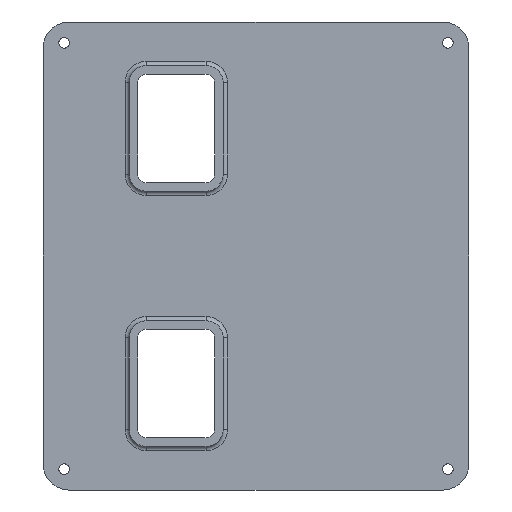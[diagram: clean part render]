
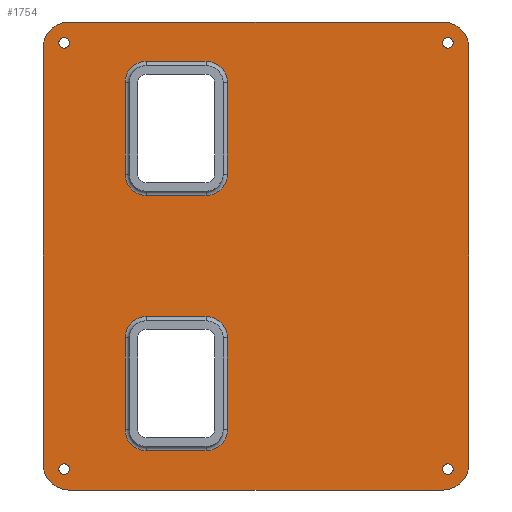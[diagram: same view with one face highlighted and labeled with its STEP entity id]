
A CAD part, front view. The second image highlights one B-rep face of the part: STEP entity #1754.
In plain terms, the highlighted planar face has unit normal (0, -1, 0).
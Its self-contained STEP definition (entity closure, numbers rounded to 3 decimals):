
#29=FACE_BOUND('',#333,.T.);
#30=FACE_BOUND('',#334,.T.);
#31=FACE_BOUND('',#335,.T.);
#32=FACE_BOUND('',#336,.T.);
#33=FACE_BOUND('',#337,.T.);
#34=FACE_BOUND('',#338,.T.);
#87=CIRCLE('',#1871,12.);
#88=CIRCLE('',#1874,12.);
#101=CIRCLE('',#1890,2.5);
#102=CIRCLE('',#1892,2.5);
#103=CIRCLE('',#1894,2.5);
#104=CIRCLE('',#1896,2.5);
#108=CIRCLE('',#1901,10.05);
#111=CIRCLE('',#1906,10.05);
#115=CIRCLE('',#1912,10.05);
#119=CIRCLE('',#1918,10.05);
#123=CIRCLE('',#1928,12.);
#124=CIRCLE('',#1929,12.);
#125=CIRCLE('',#1930,10.05);
#126=CIRCLE('',#1931,10.05);
#127=CIRCLE('',#1932,10.05);
#128=CIRCLE('',#1933,10.05);
#220=FACE_OUTER_BOUND('',#332,.T.);
#332=EDGE_LOOP('',(#1299,#1300,#1301,#1302,#1303,#1304,#1305,#1306));
#333=EDGE_LOOP('',(#1307));
#334=EDGE_LOOP('',(#1308));
#335=EDGE_LOOP('',(#1309));
#336=EDGE_LOOP('',(#1310));
#337=EDGE_LOOP('',(#1311,#1312,#1313,#1314,#1315,#1316,#1317,#1318));
#338=EDGE_LOOP('',(#1319,#1320,#1321,#1322,#1323,#1324,#1325,#1326));
#438=LINE('',#2692,#598);
#441=LINE('',#2700,#601);
#454=LINE('',#2771,#614);
#456=LINE('',#2783,#616);
#458=LINE('',#2795,#618);
#460=LINE('',#2804,#620);
#469=LINE('',#2827,#629);
#470=LINE('',#2830,#630);
#471=LINE('',#2836,#631);
#472=LINE('',#2840,#632);
#473=LINE('',#2844,#633);
#474=LINE('',#2847,#634);
#598=VECTOR('',#2119,10.);
#601=VECTOR('',#2128,10.);
#614=VECTOR('',#2197,10.);
#616=VECTOR('',#2211,10.);
#618=VECTOR('',#2225,10.);
#620=VECTOR('',#2237,10.);
#629=VECTOR('',#2260,10.);
#630=VECTOR('',#2263,10.);
#631=VECTOR('',#2268,10.);
#632=VECTOR('',#2271,10.);
#633=VECTOR('',#2274,10.);
#634=VECTOR('',#2277,10.);
#755=VERTEX_POINT('',#2684);
#756=VERTEX_POINT('',#2686);
#757=VERTEX_POINT('',#2690);
#758=VERTEX_POINT('',#2694);
#759=VERTEX_POINT('',#2698);
#780=VERTEX_POINT('',#2743);
#781=VERTEX_POINT('',#2747);
#782=VERTEX_POINT('',#2751);
#783=VERTEX_POINT('',#2755);
#784=VERTEX_POINT('',#2759);
#787=VERTEX_POINT('',#2764);
#789=VERTEX_POINT('',#2769);
#791=VERTEX_POINT('',#2775);
#793=VERTEX_POINT('',#2781);
#795=VERTEX_POINT('',#2787);
#797=VERTEX_POINT('',#2793);
#799=VERTEX_POINT('',#2799);
#805=VERTEX_POINT('',#2825);
#806=VERTEX_POINT('',#2826);
#807=VERTEX_POINT('',#2828);
#808=VERTEX_POINT('',#2832);
#809=VERTEX_POINT('',#2833);
#810=VERTEX_POINT('',#2835);
#811=VERTEX_POINT('',#2837);
#812=VERTEX_POINT('',#2839);
#813=VERTEX_POINT('',#2841);
#814=VERTEX_POINT('',#2843);
#815=VERTEX_POINT('',#2845);
#924=EDGE_CURVE('',#755,#756,#87,.T.);
#927=EDGE_CURVE('',#757,#755,#438,.T.);
#929=EDGE_CURVE('',#758,#757,#88,.T.);
#931=EDGE_CURVE('',#759,#758,#441,.T.);
#952=EDGE_CURVE('',#780,#780,#101,.T.);
#954=EDGE_CURVE('',#781,#781,#102,.T.);
#956=EDGE_CURVE('',#782,#782,#103,.T.);
#958=EDGE_CURVE('',#783,#783,#104,.T.);
#963=EDGE_CURVE('',#787,#784,#108,.T.);
#965=EDGE_CURVE('',#789,#787,#454,.T.);
#968=EDGE_CURVE('',#791,#789,#111,.T.);
#971=EDGE_CURVE('',#793,#791,#456,.T.);
#974=EDGE_CURVE('',#795,#793,#115,.T.);
#977=EDGE_CURVE('',#797,#795,#458,.T.);
#980=EDGE_CURVE('',#799,#797,#119,.T.);
#982=EDGE_CURVE('',#784,#799,#460,.T.);
#993=EDGE_CURVE('',#805,#806,#469,.T.);
#994=EDGE_CURVE('',#807,#805,#123,.T.);
#995=EDGE_CURVE('',#756,#807,#470,.T.);
#996=EDGE_CURVE('',#806,#759,#124,.T.);
#997=EDGE_CURVE('',#808,#809,#125,.T.);
#998=EDGE_CURVE('',#810,#808,#471,.T.);
#999=EDGE_CURVE('',#811,#810,#126,.T.);
#1000=EDGE_CURVE('',#812,#811,#472,.T.);
#1001=EDGE_CURVE('',#813,#812,#127,.T.);
#1002=EDGE_CURVE('',#814,#813,#473,.T.);
#1003=EDGE_CURVE('',#815,#814,#128,.T.);
#1004=EDGE_CURVE('',#809,#815,#474,.T.);
#1299=ORIENTED_EDGE('',*,*,#993,.F.);
#1300=ORIENTED_EDGE('',*,*,#994,.F.);
#1301=ORIENTED_EDGE('',*,*,#995,.F.);
#1302=ORIENTED_EDGE('',*,*,#924,.F.);
#1303=ORIENTED_EDGE('',*,*,#927,.F.);
#1304=ORIENTED_EDGE('',*,*,#929,.F.);
#1305=ORIENTED_EDGE('',*,*,#931,.F.);
#1306=ORIENTED_EDGE('',*,*,#996,.F.);
#1307=ORIENTED_EDGE('',*,*,#952,.T.);
#1308=ORIENTED_EDGE('',*,*,#954,.T.);
#1309=ORIENTED_EDGE('',*,*,#956,.T.);
#1310=ORIENTED_EDGE('',*,*,#958,.T.);
#1311=ORIENTED_EDGE('',*,*,#997,.F.);
#1312=ORIENTED_EDGE('',*,*,#998,.F.);
#1313=ORIENTED_EDGE('',*,*,#999,.F.);
#1314=ORIENTED_EDGE('',*,*,#1000,.F.);
#1315=ORIENTED_EDGE('',*,*,#1001,.F.);
#1316=ORIENTED_EDGE('',*,*,#1002,.F.);
#1317=ORIENTED_EDGE('',*,*,#1003,.F.);
#1318=ORIENTED_EDGE('',*,*,#1004,.F.);
#1319=ORIENTED_EDGE('',*,*,#963,.F.);
#1320=ORIENTED_EDGE('',*,*,#965,.F.);
#1321=ORIENTED_EDGE('',*,*,#968,.F.);
#1322=ORIENTED_EDGE('',*,*,#971,.F.);
#1323=ORIENTED_EDGE('',*,*,#974,.F.);
#1324=ORIENTED_EDGE('',*,*,#977,.F.);
#1325=ORIENTED_EDGE('',*,*,#980,.F.);
#1326=ORIENTED_EDGE('',*,*,#982,.F.);
#1688=PLANE('',#1927);
#1754=ADVANCED_FACE('',(#220,#29,#30,#31,#32,#33,#34),#1688,.F.);
#1871=AXIS2_PLACEMENT_3D('',#2687,#2113,#2114);
#1874=AXIS2_PLACEMENT_3D('',#2696,#2123,#2124);
#1890=AXIS2_PLACEMENT_3D('',#2744,#2165,#2166);
#1892=AXIS2_PLACEMENT_3D('',#2748,#2170,#2171);
#1894=AXIS2_PLACEMENT_3D('',#2752,#2175,#2176);
#1896=AXIS2_PLACEMENT_3D('',#2756,#2180,#2181);
#1901=AXIS2_PLACEMENT_3D('',#2766,#2191,#2192);
#1906=AXIS2_PLACEMENT_3D('',#2777,#2203,#2204);
#1912=AXIS2_PLACEMENT_3D('',#2789,#2217,#2218);
#1918=AXIS2_PLACEMENT_3D('',#2801,#2231,#2232);
#1927=AXIS2_PLACEMENT_3D('',#2824,#2258,#2259);
#1928=AXIS2_PLACEMENT_3D('',#2829,#2261,#2262);
#1929=AXIS2_PLACEMENT_3D('',#2831,#2264,#2265);
#1930=AXIS2_PLACEMENT_3D('',#2834,#2266,#2267);
#1931=AXIS2_PLACEMENT_3D('',#2838,#2269,#2270);
#1932=AXIS2_PLACEMENT_3D('',#2842,#2272,#2273);
#1933=AXIS2_PLACEMENT_3D('',#2846,#2275,#2276);
#2113=DIRECTION('center_axis',(0.,1.,0.));
#2114=DIRECTION('ref_axis',(-1.,0.,0.));
#2119=DIRECTION('',(0.,0.,1.));
#2123=DIRECTION('center_axis',(0.,1.,0.));
#2124=DIRECTION('ref_axis',(0.,0.,-1.));
#2128=DIRECTION('',(-1.,0.,0.));
#2165=DIRECTION('center_axis',(0.,1.,0.));
#2166=DIRECTION('ref_axis',(1.,0.,0.));
#2170=DIRECTION('center_axis',(0.,1.,0.));
#2171=DIRECTION('ref_axis',(1.,0.,0.));
#2175=DIRECTION('center_axis',(0.,1.,0.));
#2176=DIRECTION('ref_axis',(1.,0.,0.));
#2180=DIRECTION('center_axis',(0.,1.,0.));
#2181=DIRECTION('ref_axis',(1.,0.,0.));
#2191=DIRECTION('center_axis',(0.,-1.,0.));
#2192=DIRECTION('ref_axis',(0.707,0.,-0.707));
#2197=DIRECTION('',(1.,0.,0.));
#2203=DIRECTION('center_axis',(0.,-1.,0.));
#2204=DIRECTION('ref_axis',(-0.707,0.,-0.707));
#2211=DIRECTION('',(0.,0.,-1.));
#2217=DIRECTION('center_axis',(0.,-1.,0.));
#2218=DIRECTION('ref_axis',(-0.707,0.,0.707));
#2225=DIRECTION('',(-1.,0.,0.));
#2231=DIRECTION('center_axis',(0.,-1.,0.));
#2232=DIRECTION('ref_axis',(0.707,0.,0.707));
#2237=DIRECTION('',(0.,0.,1.));
#2258=DIRECTION('center_axis',(0.,1.,0.));
#2259=DIRECTION('ref_axis',(0.,0.,1.));
#2260=DIRECTION('',(0.,0.,-1.));
#2261=DIRECTION('center_axis',(0.,1.,0.));
#2262=DIRECTION('ref_axis',(0.,0.,1.));
#2263=DIRECTION('',(1.,0.,0.));
#2264=DIRECTION('center_axis',(0.,1.,0.));
#2265=DIRECTION('ref_axis',(1.,0.,0.));
#2266=DIRECTION('center_axis',(0.,-1.,0.));
#2267=DIRECTION('ref_axis',(0.707,0.,-0.707));
#2268=DIRECTION('',(1.,0.,0.));
#2269=DIRECTION('center_axis',(0.,-1.,0.));
#2270=DIRECTION('ref_axis',(-0.707,0.,-0.707));
#2271=DIRECTION('',(0.,0.,-1.));
#2272=DIRECTION('center_axis',(0.,-1.,0.));
#2273=DIRECTION('ref_axis',(-0.707,0.,0.707));
#2274=DIRECTION('',(-1.,0.,0.));
#2275=DIRECTION('center_axis',(0.,-1.,0.));
#2276=DIRECTION('ref_axis',(0.707,0.,0.707));
#2277=DIRECTION('',(0.,0.,1.));
#2684=CARTESIAN_POINT('',(-42.,-10.,65.));
#2686=CARTESIAN_POINT('',(-30.,-10.,77.));
#2687=CARTESIAN_POINT('Origin',(-30.,-10.,65.));
#2690=CARTESIAN_POINT('',(-42.,-10.,-131.));
#2692=CARTESIAN_POINT('',(-42.,-10.,-131.));
#2694=CARTESIAN_POINT('',(-30.,-10.,-143.));
#2696=CARTESIAN_POINT('Origin',(-30.,-10.,-131.));
#2698=CARTESIAN_POINT('',(146.,-10.,-143.));
#2700=CARTESIAN_POINT('',(146.,-10.,-143.));
#2743=CARTESIAN_POINT('',(145.68,-10.,67.18));
#2744=CARTESIAN_POINT('Origin',(148.18,-10.,67.18));
#2747=CARTESIAN_POINT('',(145.68,-10.,-133.18));
#2748=CARTESIAN_POINT('Origin',(148.18,-10.,-133.18));
#2751=CARTESIAN_POINT('',(-34.68,-10.,-133.18));
#2752=CARTESIAN_POINT('Origin',(-32.18,-10.,-133.18));
#2755=CARTESIAN_POINT('',(-34.68,-10.,67.18));
#2756=CARTESIAN_POINT('Origin',(-32.18,-10.,67.18));
#2759=CARTESIAN_POINT('',(44.55,-10.,5.5));
#2764=CARTESIAN_POINT('',(34.5,-10.,-4.55));
#2766=CARTESIAN_POINT('Origin',(34.5,-10.,5.5));
#2769=CARTESIAN_POINT('',(6.5,-10.,-4.55));
#2771=CARTESIAN_POINT('',(32.25,-10.,-4.55));
#2775=CARTESIAN_POINT('',(-3.55,-10.,5.5));
#2777=CARTESIAN_POINT('Origin',(6.5,-10.,5.5));
#2781=CARTESIAN_POINT('',(-3.55,-10.,48.5));
#2783=CARTESIAN_POINT('',(-3.55,-10.,7.75));
#2787=CARTESIAN_POINT('',(6.5,-10.,58.55));
#2789=CARTESIAN_POINT('Origin',(6.5,-10.,48.5));
#2793=CARTESIAN_POINT('',(34.5,-10.,58.55));
#2795=CARTESIAN_POINT('',(46.25,-10.,58.55));
#2799=CARTESIAN_POINT('',(44.55,-10.,48.5));
#2801=CARTESIAN_POINT('Origin',(34.5,-10.,48.5));
#2804=CARTESIAN_POINT('',(44.55,-10.,-13.75));
#2824=CARTESIAN_POINT('Origin',(58.,-10.,-33.));
#2825=CARTESIAN_POINT('',(158.,-10.,65.));
#2826=CARTESIAN_POINT('',(158.,-10.,-131.));
#2827=CARTESIAN_POINT('',(158.,-10.,65.));
#2828=CARTESIAN_POINT('',(146.,-10.,77.));
#2829=CARTESIAN_POINT('Origin',(146.,-10.,65.));
#2830=CARTESIAN_POINT('',(-30.,-10.,77.));
#2831=CARTESIAN_POINT('Origin',(146.,-10.,-131.));
#2832=CARTESIAN_POINT('',(34.5,-10.,-124.55));
#2833=CARTESIAN_POINT('',(44.55,-10.,-114.5));
#2834=CARTESIAN_POINT('Origin',(34.5,-10.,-114.5));
#2835=CARTESIAN_POINT('',(6.5,-10.,-124.55));
#2836=CARTESIAN_POINT('',(32.25,-10.,-124.55));
#2837=CARTESIAN_POINT('',(-3.55,-10.,-114.5));
#2838=CARTESIAN_POINT('Origin',(6.5,-10.,-114.5));
#2839=CARTESIAN_POINT('',(-3.55,-10.,-71.5));
#2840=CARTESIAN_POINT('',(-3.55,-10.,-52.25));
#2841=CARTESIAN_POINT('',(6.5,-10.,-61.45));
#2842=CARTESIAN_POINT('Origin',(6.5,-10.,-71.5));
#2843=CARTESIAN_POINT('',(34.5,-10.,-61.45));
#2844=CARTESIAN_POINT('',(46.25,-10.,-61.45));
#2845=CARTESIAN_POINT('',(44.55,-10.,-71.5));
#2846=CARTESIAN_POINT('Origin',(34.5,-10.,-71.5));
#2847=CARTESIAN_POINT('',(44.55,-10.,-73.75));
